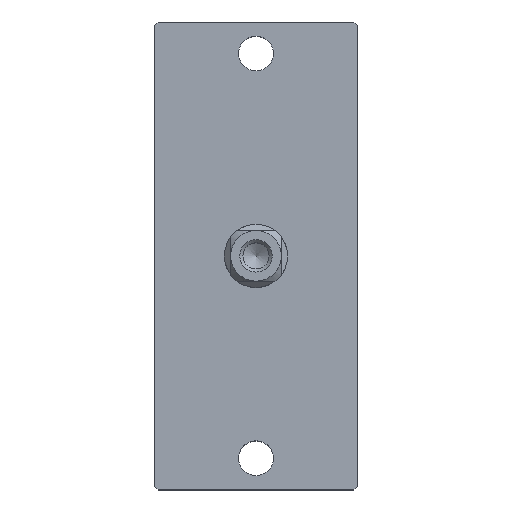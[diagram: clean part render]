
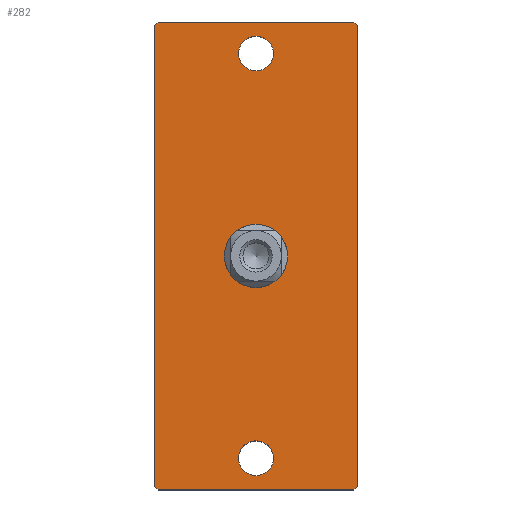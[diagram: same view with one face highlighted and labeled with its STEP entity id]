
A CAD part, top view. The second image highlights one B-rep face of the part: STEP entity #282.
In plain terms, the highlighted planar face has unit normal (0, 0, 1).
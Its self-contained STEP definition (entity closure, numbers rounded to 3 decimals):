
#117=CARTESIAN_POINT('',(-11.983,36.5,14.));
#118=VERTEX_POINT('',#117);
#119=CARTESIAN_POINT('',(-11.483,37.0,14.));
#120=VERTEX_POINT('',#119);
#121=CARTESIAN_POINT('',(-11.983,36.5,14.));
#122=DIRECTION('',(0.707,0.707,0.0));
#123=VECTOR('',#122,0.707);
#124=LINE('',#121,#123);
#125=EDGE_CURVE('',#118,#120,#124,.T.);
#160=CARTESIAN_POINT('',(4.017,0.,14.));
#161=DIRECTION('',(0.0,0.0,1.0));
#162=DIRECTION('',(1.0,0.0,0.0));
#163=AXIS2_PLACEMENT_3D('',#160,#161,#162);
#164=PLANE('',#163);
#165=ORIENTED_EDGE('',*,*,#125,.F.);
#166=CARTESIAN_POINT('',(-11.983,-36.5,14.));
#167=VERTEX_POINT('',#166);
#168=CARTESIAN_POINT('',(-11.983,-36.5,14.));
#169=DIRECTION('',(0.0,1.0,0.0));
#170=VECTOR('',#169,73.0);
#171=LINE('',#168,#170);
#172=EDGE_CURVE('',#167,#118,#171,.T.);
#173=ORIENTED_EDGE('',*,*,#172,.F.);
#174=CARTESIAN_POINT('',(-11.483,-37.0,14.));
#175=VERTEX_POINT('',#174);
#176=CARTESIAN_POINT('',(-11.483,-37.0,14.));
#177=DIRECTION('',(-0.707,0.707,0.0));
#178=VECTOR('',#177,0.707);
#179=LINE('',#176,#178);
#180=EDGE_CURVE('',#175,#167,#179,.T.);
#181=ORIENTED_EDGE('',*,*,#180,.F.);
#182=CARTESIAN_POINT('',(19.517,-37.0,14.));
#183=VERTEX_POINT('',#182);
#184=CARTESIAN_POINT('',(19.517,-37.0,14.));
#185=DIRECTION('',(-1.0,0.0,0.0));
#186=VECTOR('',#185,31.);
#187=LINE('',#184,#186);
#188=EDGE_CURVE('',#183,#175,#187,.T.);
#189=ORIENTED_EDGE('',*,*,#188,.F.);
#190=CARTESIAN_POINT('',(20.017,-36.5,14.));
#191=VERTEX_POINT('',#190);
#192=CARTESIAN_POINT('',(20.017,-36.5,14.));
#193=DIRECTION('',(-0.707,-0.707,0.0));
#194=VECTOR('',#193,0.707);
#195=LINE('',#192,#194);
#196=EDGE_CURVE('',#191,#183,#195,.T.);
#197=ORIENTED_EDGE('',*,*,#196,.F.);
#198=CARTESIAN_POINT('',(20.017,36.5,14.));
#199=VERTEX_POINT('',#198);
#200=CARTESIAN_POINT('',(20.017,36.5,14.));
#201=DIRECTION('',(0.0,-1.0,0.0));
#202=VECTOR('',#201,73.0);
#203=LINE('',#200,#202);
#204=EDGE_CURVE('',#199,#191,#203,.T.);
#205=ORIENTED_EDGE('',*,*,#204,.F.);
#206=CARTESIAN_POINT('',(19.517,37.0,14.));
#207=VERTEX_POINT('',#206);
#208=CARTESIAN_POINT('',(19.517,37.0,14.));
#209=DIRECTION('',(0.707,-0.707,0.0));
#210=VECTOR('',#209,0.707);
#211=LINE('',#208,#210);
#212=EDGE_CURVE('',#207,#199,#211,.T.);
#213=ORIENTED_EDGE('',*,*,#212,.F.);
#214=CARTESIAN_POINT('',(-11.483,37.0,14.));
#215=DIRECTION('',(1.0,0.0,0.0));
#216=VECTOR('',#215,31.0);
#217=LINE('',#214,#216);
#218=EDGE_CURVE('',#120,#207,#217,.T.);
#219=ORIENTED_EDGE('',*,*,#218,.F.);
#220=EDGE_LOOP('',(#165,#173,#181,#189,#197,#205,#213,#219));
#221=FACE_OUTER_BOUND('',#220,.T.);
#222=CARTESIAN_POINT('',(6.767,32.0,14.));
#223=VERTEX_POINT('',#222);
#224=CARTESIAN_POINT('',(4.017,32.0,14.));
#225=DIRECTION('',(0.0,0.0,-1.0));
#226=DIRECTION('',(-1.0,0.0,0.0));
#227=AXIS2_PLACEMENT_3D('',#224,#225,#226);
#228=CIRCLE('',#227,2.75);
#229=EDGE_CURVE('',#223,#223,#228,.T.);
#230=ORIENTED_EDGE('',*,*,#229,.T.);
#231=EDGE_LOOP('',(#230));
#232=FACE_BOUND('',#231,.T.);
#233=CARTESIAN_POINT('',(4.017,5.0,14.));
#234=VERTEX_POINT('',#233);
#235=CARTESIAN_POINT('',(9.017,0.,14.0));
#236=VERTEX_POINT('',#235);
#237=CARTESIAN_POINT('',(4.017,0.0,14.));
#238=DIRECTION('',(0.0,0.0,-1.0));
#239=DIRECTION('',(0.0,1.0,0.0));
#240=AXIS2_PLACEMENT_3D('',#237,#238,#239);
#241=CIRCLE('',#240,5.0);
#242=EDGE_CURVE('',#234,#236,#241,.T.);
#243=ORIENTED_EDGE('',*,*,#242,.T.);
#244=CARTESIAN_POINT('',(4.017,-5.,14.0));
#245=VERTEX_POINT('',#244);
#246=CARTESIAN_POINT('',(4.017,0.0,14.));
#247=DIRECTION('',(0.0,0.0,-1.0));
#248=DIRECTION('',(0.0,1.0,0.0));
#249=AXIS2_PLACEMENT_3D('',#246,#247,#248);
#250=CIRCLE('',#249,5.0);
#251=EDGE_CURVE('',#236,#245,#250,.T.);
#252=ORIENTED_EDGE('',*,*,#251,.T.);
#253=CARTESIAN_POINT('',(-0.983,0.,14.0));
#254=VERTEX_POINT('',#253);
#255=CARTESIAN_POINT('',(4.017,0.0,14.));
#256=DIRECTION('',(0.0,0.0,-1.0));
#257=DIRECTION('',(0.0,1.0,0.0));
#258=AXIS2_PLACEMENT_3D('',#255,#256,#257);
#259=CIRCLE('',#258,5.0);
#260=EDGE_CURVE('',#245,#254,#259,.T.);
#261=ORIENTED_EDGE('',*,*,#260,.T.);
#262=CARTESIAN_POINT('',(4.017,0.0,14.));
#263=DIRECTION('',(0.0,0.0,-1.0));
#264=DIRECTION('',(0.0,1.0,0.0));
#265=AXIS2_PLACEMENT_3D('',#262,#263,#264);
#266=CIRCLE('',#265,5.0);
#267=EDGE_CURVE('',#254,#234,#266,.T.);
#268=ORIENTED_EDGE('',*,*,#267,.T.);
#269=EDGE_LOOP('',(#243,#252,#261,#268));
#270=FACE_BOUND('',#269,.T.);
#271=CARTESIAN_POINT('',(6.767,-32.0,14.));
#272=VERTEX_POINT('',#271);
#273=CARTESIAN_POINT('',(4.017,-32.0,14.));
#274=DIRECTION('',(0.0,0.0,-1.0));
#275=DIRECTION('',(-1.0,0.0,0.0));
#276=AXIS2_PLACEMENT_3D('',#273,#274,#275);
#277=CIRCLE('',#276,2.75);
#278=EDGE_CURVE('',#272,#272,#277,.T.);
#279=ORIENTED_EDGE('',*,*,#278,.T.);
#280=EDGE_LOOP('',(#279));
#281=FACE_BOUND('',#280,.T.);
#282=ADVANCED_FACE('',(#221,#232,#270,#281),#164,.T.);
